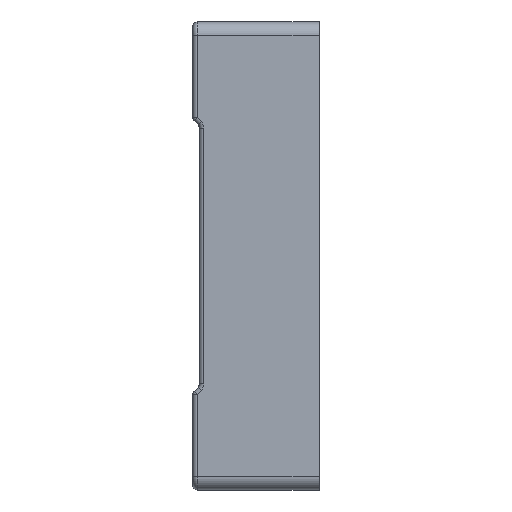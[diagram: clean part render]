
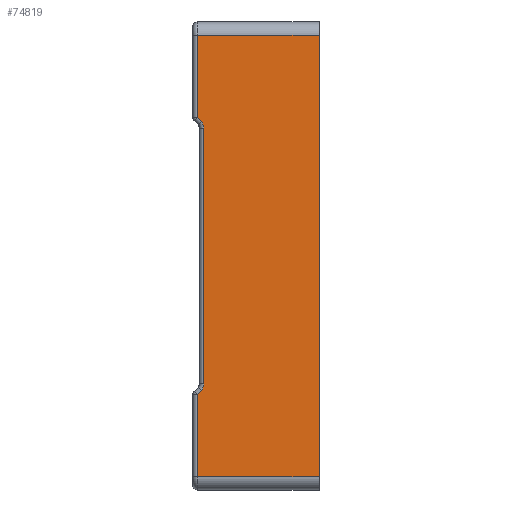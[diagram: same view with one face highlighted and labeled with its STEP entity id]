
A CAD part, left-side view. The second image highlights one B-rep face of the part: STEP entity #74819.
In plain terms, the highlighted planar face has unit normal (-1, 0, 0).
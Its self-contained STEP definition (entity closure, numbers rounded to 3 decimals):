
#4815 = LINE ( 'NONE', #13942, #27089 ) ;
#9926 = VECTOR ( 'NONE', #12389, 1000. ) ;
#10053 = VERTEX_POINT ( 'NONE', #101160 ) ;
#11145 = ORIENTED_EDGE ( 'NONE', *, *, #45407, .T. ) ;
#11170 = CARTESIAN_POINT ( 'NONE',  ( -71.5, 28.5, 52.75 ) ) ;
#12389 = DIRECTION ( 'NONE',  ( 0., -1., 0. ) ) ;
#13942 = CARTESIAN_POINT ( 'NONE',  ( -71.5, 38.793, 42.457 ) ) ;
#14804 = CARTESIAN_POINT ( 'NONE',  ( -71.5, 26.586, 30.25 ) ) ;
#15441 = LINE ( 'NONE', #23985, #106803 ) ;
#15641 = ORIENTED_EDGE ( 'NONE', *, *, #86928, .T. ) ;
#19718 = ORIENTED_EDGE ( 'NONE', *, *, #97700, .F. ) ;
#21317 = VECTOR ( 'NONE', #37819, 1000. ) ;
#21412 = DIRECTION ( 'NONE',  ( 1., 0., 0. ) ) ;
#21793 = EDGE_LOOP ( 'NONE', ( #69644, #15641, #11145, #111076, #83585, #109114, #110288, #63570, #112056, #19718 ) ) ;
#23538 = VERTEX_POINT ( 'NONE', #81304 ) ;
#23985 = CARTESIAN_POINT ( 'NONE',  ( -71.5, 27.5, -49.75 ) ) ;
#25724 = AXIS2_PLACEMENT_3D ( 'NONE', #11170, #21412, #107697 ) ;
#25842 = VECTOR ( 'NONE', #97162, 1000. ) ;
#27089 = VECTOR ( 'NONE', #49764, 1000. ) ;
#27619 = DIRECTION ( 'NONE',  ( 0., 0., -1. ) ) ;
#28443 = EDGE_CURVE ( 'NONE', #93322, #23538, #108522, .T. ) ;
#29168 = CARTESIAN_POINT ( 'NONE',  ( -71.5, 27.5, -31.164 ) ) ;
#33563 = CARTESIAN_POINT ( 'NONE',  ( -71.5, 27.5, -49.75 ) ) ;
#35298 = CARTESIAN_POINT ( 'NONE',  ( -71.5, 26., 28.836 ) ) ;
#35472 = CARTESIAN_POINT ( 'NONE',  ( -71.5, 28.5, 49.75 ) ) ;
#37489 = CIRCLE ( 'NONE', #100936, 2. ) ;
#37819 = DIRECTION ( 'NONE',  ( 0., 0.707, -0.707 ) ) ;
#44872 = VERTEX_POINT ( 'NONE', #33563 ) ;
#45407 = EDGE_CURVE ( 'NONE', #10053, #54884, #4815, .T. ) ;
#46942 = EDGE_CURVE ( 'NONE', #64751, #44872, #15441, .T. ) ;
#49764 = DIRECTION ( 'NONE',  ( 0., -0.707, -0.707 ) ) ;
#52654 = CARTESIAN_POINT ( 'NONE',  ( -71.5, 28., -28.836 ) ) ;
#54884 = VERTEX_POINT ( 'NONE', #14804 ) ;
#58634 = CARTESIAN_POINT ( 'NONE',  ( -71.5, 26., 52.75 ) ) ;
#59238 = DIRECTION ( 'NONE',  ( 0., 0., -1. ) ) ;
#60946 = LINE ( 'NONE', #87550, #25842 ) ;
#62709 = CARTESIAN_POINT ( 'NONE',  ( -71.5, 28., 28.836 ) ) ;
#63402 = CARTESIAN_POINT ( 'NONE',  ( -71.5, -13.957, 10.293 ) ) ;
#63570 = ORIENTED_EDGE ( 'NONE', *, *, #46942, .T. ) ;
#64138 = CARTESIAN_POINT ( 'NONE',  ( -71.5, 0., 49.75 ) ) ;
#64751 = VERTEX_POINT ( 'NONE', #29168 ) ;
#65464 = DIRECTION ( 'NONE',  ( 0., 0., -1. ) ) ;
#65652 = CIRCLE ( 'NONE', #78259, 2. ) ;
#66830 = EDGE_CURVE ( 'NONE', #93322, #54884, #37489, .T. ) ;
#67527 = EDGE_CURVE ( 'NONE', #81487, #64751, #99098, .T. ) ;
#67680 = VERTEX_POINT ( 'NONE', #84336 ) ;
#69644 = ORIENTED_EDGE ( 'NONE', *, *, #99445, .T. ) ;
#71110 = VERTEX_POINT ( 'NONE', #72015 ) ;
#71224 = DIRECTION ( 'NONE',  ( -1., 0., 0. ) ) ;
#72015 = CARTESIAN_POINT ( 'NONE',  ( -71.5, 0., -49.75 ) ) ;
#73150 = FACE_OUTER_BOUND ( 'NONE', #21793, .T. ) ;
#74674 = CARTESIAN_POINT ( 'NONE',  ( -71.5, 26.586, -30.25 ) ) ;
#74819 = ADVANCED_FACE ( 'NONE', ( #73150 ), #99202, .F. ) ;
#76080 = LINE ( 'NONE', #104915, #84068 ) ;
#77109 = EDGE_CURVE ( 'NONE', #44872, #71110, #80046, .T. ) ;
#78259 = AXIS2_PLACEMENT_3D ( 'NONE', #52654, #105941, #27619 ) ;
#80046 = LINE ( 'NONE', #86927, #9926 ) ;
#80268 = DIRECTION ( 'NONE',  ( 0., 1., 0. ) ) ;
#81304 = CARTESIAN_POINT ( 'NONE',  ( -71.5, 26., -28.836 ) ) ;
#81487 = VERTEX_POINT ( 'NONE', #74674 ) ;
#83585 = ORIENTED_EDGE ( 'NONE', *, *, #28443, .T. ) ;
#84068 = VECTOR ( 'NONE', #106583, 1000. ) ;
#84336 = CARTESIAN_POINT ( 'NONE',  ( -71.5, 27.5, 49.75 ) ) ;
#86927 = CARTESIAN_POINT ( 'NONE',  ( -71.5, 28.5, -49.75 ) ) ;
#86928 = EDGE_CURVE ( 'NONE', #67680, #10053, #76080, .T. ) ;
#87550 = CARTESIAN_POINT ( 'NONE',  ( -71.5, 0., 0. ) ) ;
#92371 = VERTEX_POINT ( 'NONE', #64138 ) ;
#93322 = VERTEX_POINT ( 'NONE', #35298 ) ;
#96718 = VECTOR ( 'NONE', #80268, 1000. ) ;
#97162 = DIRECTION ( 'NONE',  ( 0., 0., -1. ) ) ;
#97193 = EDGE_CURVE ( 'NONE', #81487, #23538, #65652, .T. ) ;
#97700 = EDGE_CURVE ( 'NONE', #92371, #71110, #60946, .T. ) ;
#99098 = LINE ( 'NONE', #63402, #21317 ) ;
#99202 = PLANE ( 'NONE',  #25724 ) ;
#99445 = EDGE_CURVE ( 'NONE', #92371, #67680, #103031, .T. ) ;
#100488 = DIRECTION ( 'NONE',  ( 0., 0., -1. ) ) ;
#100936 = AXIS2_PLACEMENT_3D ( 'NONE', #62709, #71224, #100488 ) ;
#101160 = CARTESIAN_POINT ( 'NONE',  ( -71.5, 27.5, 31.164 ) ) ;
#102798 = VECTOR ( 'NONE', #65464, 1000. ) ;
#103031 = LINE ( 'NONE', #35472, #96718 ) ;
#104915 = CARTESIAN_POINT ( 'NONE',  ( -71.5, 27.5, 30.75 ) ) ;
#105941 = DIRECTION ( 'NONE',  ( -1., 0., 0. ) ) ;
#106583 = DIRECTION ( 'NONE',  ( 0., 0., -1. ) ) ;
#106803 = VECTOR ( 'NONE', #59238, 1000. ) ;
#107697 = DIRECTION ( 'NONE',  ( 0., 0., -1. ) ) ;
#108522 = LINE ( 'NONE', #58634, #102798 ) ;
#109114 = ORIENTED_EDGE ( 'NONE', *, *, #97193, .F. ) ;
#110288 = ORIENTED_EDGE ( 'NONE', *, *, #67527, .T. ) ;
#111076 = ORIENTED_EDGE ( 'NONE', *, *, #66830, .F. ) ;
#112056 = ORIENTED_EDGE ( 'NONE', *, *, #77109, .T. ) ;
